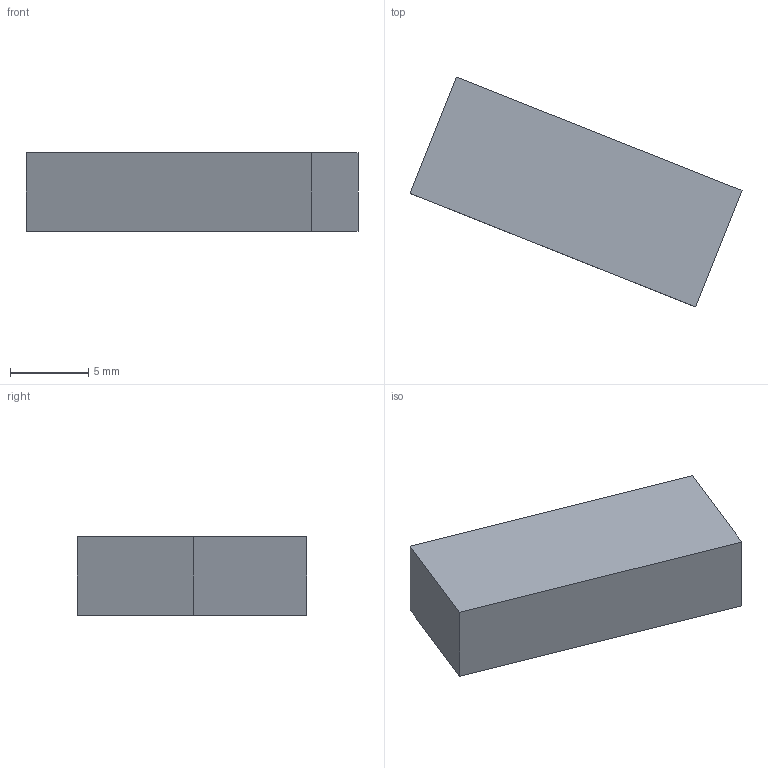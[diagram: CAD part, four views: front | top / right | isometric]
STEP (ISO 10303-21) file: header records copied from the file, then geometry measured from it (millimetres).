
FILE_DESCRIPTION(('Open CASCADE Model'),'2;1');
FILE_NAME('Open CASCADE Shape Model','2026-10-04T01:02:34',('Author'),( 'Open CASCADE'),'Open CASCADE STEP processor 8.0','Open CASCADE 8.0' ,'Unknown');
FILE_SCHEMA(('AUTOMOTIVE_DESIGN { 1 0 10303 214 1 1 1 1 }'));
Length unit declared in the file: millimetre
Products named in the file (1): Open CASCADE STEP translator 8.0 377
Bounding box: 21.2 x 14.67 x 5 mm (x, y, z)
Volume: 785.2 mm3; surface area: 590.3 mm2
Topology: 1 solids, 1 shells, 6 faces, 12 edges, 8 vertices
Faces by surface type: plane 6
Entity records: 322 total; most frequent: CARTESIAN_POINT 51, DIRECTION 50, LINE 36, VECTOR 36, ORIENTED_EDGE 24, PCURVE 24, DEFINITIONAL_REPRESENTATION 24, EDGE_CURVE 12
